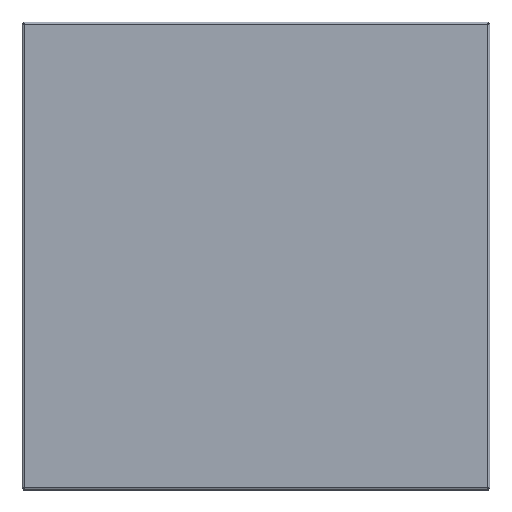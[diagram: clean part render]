
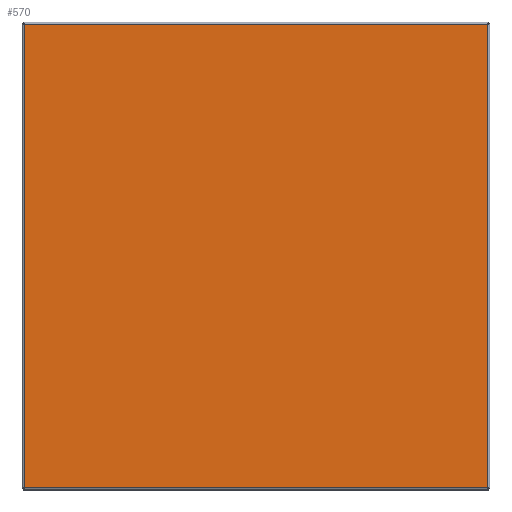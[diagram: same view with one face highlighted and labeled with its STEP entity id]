
A CAD part, top view. The second image highlights one B-rep face of the part: STEP entity #570.
In plain terms, the highlighted planar face has unit normal (0, 0, 1).
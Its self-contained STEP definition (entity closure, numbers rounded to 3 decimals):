
#36=PLANE('',#623);
#82=FACE_OUTER_BOUND('',#120,.T.);
#120=EDGE_LOOP('',(#521,#522,#523,#524));
#150=LINE('',#1297,#210);
#162=LINE('',#1320,#222);
#174=LINE('',#1343,#234);
#186=LINE('',#1366,#246);
#210=VECTOR('',#641,10.);
#222=VECTOR('',#667,10.);
#234=VECTOR('',#693,10.);
#246=VECTOR('',#719,10.);
#258=VERTEX_POINT('',#768);
#264=VERTEX_POINT('',#905);
#270=VERTEX_POINT('',#1042);
#276=VERTEX_POINT('',#1179);
#326=EDGE_CURVE('',#276,#270,#150,.T.);
#338=EDGE_CURVE('',#258,#276,#162,.T.);
#350=EDGE_CURVE('',#270,#264,#174,.T.);
#362=EDGE_CURVE('',#264,#258,#186,.T.);
#521=ORIENTED_EDGE('',*,*,#326,.T.);
#522=ORIENTED_EDGE('',*,*,#350,.T.);
#523=ORIENTED_EDGE('',*,*,#362,.T.);
#524=ORIENTED_EDGE('',*,*,#338,.T.);
#570=ADVANCED_FACE('',(#82),#36,.T.);
#623=AXIS2_PLACEMENT_3D('',#1388,#744,#745);
#641=DIRECTION('',(0.,1.,0.));
#667=DIRECTION('',(1.,0.,0.));
#693=DIRECTION('',(-1.,0.,0.));
#719=DIRECTION('',(0.,-1.,0.));
#744=DIRECTION('center_axis',(0.,0.,1.));
#745=DIRECTION('ref_axis',(1.,0.,0.));
#768=CARTESIAN_POINT('',(-148.43,-148.43,0.));
#905=CARTESIAN_POINT('',(-148.43,148.43,0.));
#1042=CARTESIAN_POINT('',(148.43,148.43,0.));
#1179=CARTESIAN_POINT('',(148.43,-148.43,0.));
#1297=CARTESIAN_POINT('',(148.43,-74.215,0.));
#1320=CARTESIAN_POINT('',(-74.215,-148.43,0.));
#1343=CARTESIAN_POINT('',(74.215,148.43,0.));
#1366=CARTESIAN_POINT('',(-148.43,74.215,0.));
#1388=CARTESIAN_POINT('Origin',(0.,0.,
0.));
